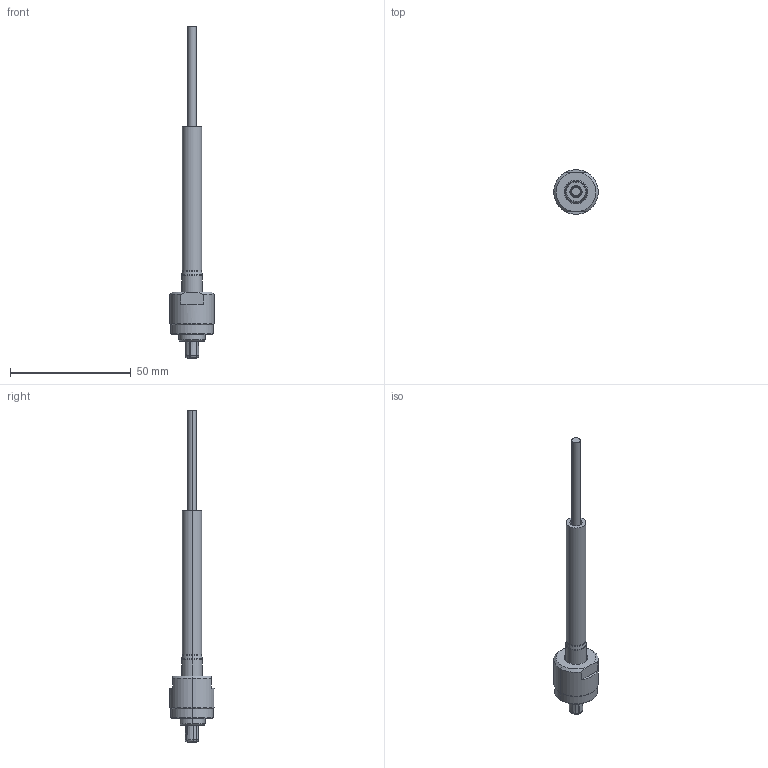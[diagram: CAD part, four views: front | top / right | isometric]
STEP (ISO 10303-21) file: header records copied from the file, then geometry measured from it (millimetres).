
FILE_DESCRIPTION (( 'STEP AP203' ), '1' );
FILE_NAME ('COB-121C-MX Cable 1 Pin Male.STEP', '2024-07-24T16:46:22', ( '' ), ( '' ), 'SwSTEP 2.0', 'SolidWorks 2022', '' );
FILE_SCHEMA (( 'CONFIG_CONTROL_DESIGN' ));
Length unit declared in the file: millimetre
Products named in the file (1): COB-121C-MX Cable 1 Pin Male
Bounding box: 18.5 x 18.5 x 137.5 mm (x, y, z)
Volume: 7180.7 mm3; surface area: 8088.5 mm2
Topology: 3 solids, 4 shells, 167 faces, 400 edges, 248 vertices
Faces by surface type: cylinder 52, plane 48, cone 35, torus 29, bspline 3
Entity records: 6177 total; most frequent: CARTESIAN_POINT 2279, DIRECTION 835, ORIENTED_EDGE 792, EDGE_CURVE 396, AXIS2_PLACEMENT_3D 355, VERTEX_POINT 248, CIRCLE 190, EDGE_LOOP 182
